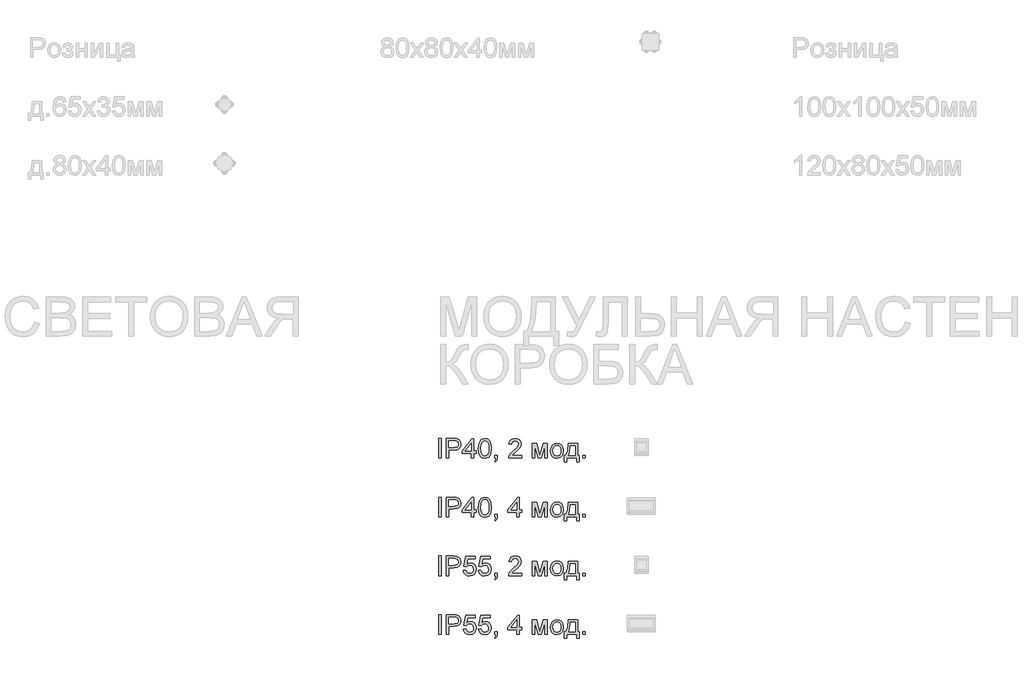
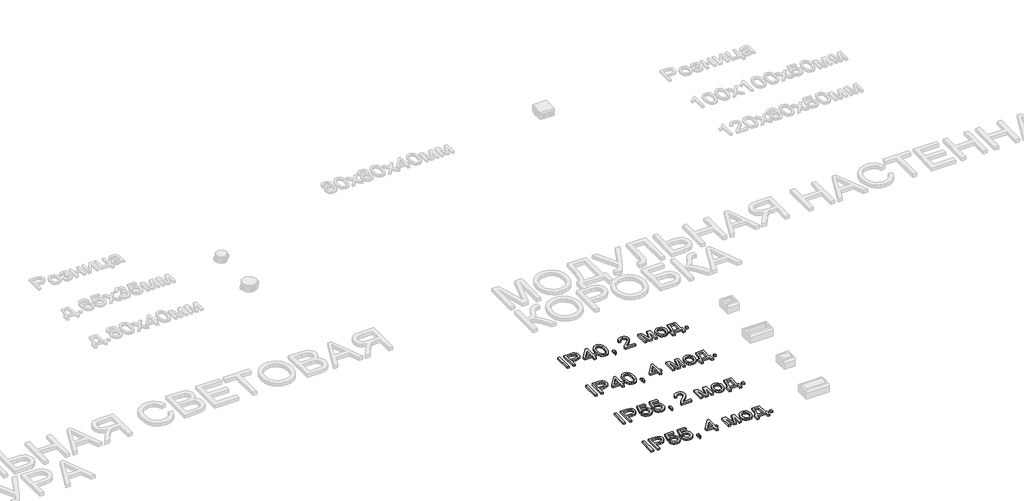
# One storey, part 7 of 98: 4 proxies.
"""IFC4 building model written with IfcOpenShell, lengths in millimetres."""

from ifc_helpers import new_model, si_unit, origin, origin_with_axes, place, context, project, spatial, polyline, outline, extrude, element, save

model = new_model("IFC4")

# Units and contexts
model_context = context("Model", 3, world=origin())
ifc_project = project(units=[si_unit("LENGTHUNIT", "METRE", prefix="MILLI")], contexts=[model_context])

# Site, building, storey
site = spatial("IfcSite", under=ifc_project)
building = spatial("IfcBuilding", under=site)
storey = spatial("IfcBuildingStorey", under=building, Name="Этаж 01", Elevation=0.0)

# Proxies
placement = place(None, origin())
element("IfcBuildingElementProxy", 1, Name="100", ObjectType="100", at=placement, inside=storey, context=model_context, shape_type="SweptSolid", body=[
    extrude(outline(polyline([(4145.2629118, -48404.2224173), (4145.2629118, -48303.7661071), (4157.8199506, -48303.7661071), (4157.8199506, -48404.2224173), (4145.2629118, -48404.2224173)])), origin_with_axes(), (0.0, 0.0, 1.0), 10.0),
    extrude(outline(polyline([(4182.9340281, -48404.2224173), (4182.9340281, -48303.7661071), (4220.163686, -48303.7661071), (4235.1732714, -48304.7226003), (4247.3746909, -48309.4192271), (4255.2841538, -48319.1313118), (4258.2762607, -48332.8287848), (4256.2559754, -48344.6684536), (4250.1951196, -48354.5338225), (4238.8612884, -48361.1924866), (4221.0220773, -48363.4120413), (4195.4910669, -48363.4120413), (4195.4910669, -48404.2224173), (4182.9340281, -48404.2224173)]), holes=[polyline([(4195.4910669, -48350.8550025), (4221.7578413, -48350.8550025), (4240.2500429, -48346.2442148), (4244.3519272, -48340.6953281), (4245.7192219, -48333.2702431), (4242.4941231, -48322.8714454), (4234.0205745, -48317.1815372), (4221.4635357, -48316.3231459), (4195.4910669, -48316.3231459), (4195.4910669, -48350.8550025)])]), origin_with_axes(), (0.0, 0.0, 1.0), 10.0),
    extrude(outline(polyline([(4311.6436755, -48404.2224173), (4311.6436755, -48380.6779696), (4266.1244099, -48380.6779696), (4266.1244099, -48368.1209308), (4314.7829352, -48305.335737), (4324.2007142, -48305.335737), (4324.2007142, -48368.1209308), (4336.757753, -48368.1209308), (4336.757753, -48380.6779696), (4324.2007142, -48380.6779696), (4324.2007142, -48404.2224173), (4311.6436755, -48404.2224173)]), holes=[polyline([(4311.6436755, -48368.1209308), (4311.6436755, -48329.3216431), (4281.5754537, -48368.1209308), (4311.6436755, -48368.1209308)])]), origin_with_axes(), (0.0, 0.0, 1.0), 10.0),
    extrude(outline(polyline([(4347.7451619, -48354.8036026), (4351.4362446, -48325.9003405), (4362.3991281, -48309.2352861), (4380.7073887, -48303.7661071), (4395.3736176, -48307.0034687), (4405.5026352, -48316.3354086), (4411.3887471, -48331.1978412), (4413.6696155, -48354.8036026), (4410.015321, -48383.5842374), (4399.0892257, -48400.2860799), (4390.8578661, -48404.4155553), (4380.7073887, -48405.7920471), (4367.6598406, -48403.4008142), (4357.7515522, -48396.2271153), (4350.2467595, -48379.2370984), (4347.7451619, -48354.8036026)]), holes=[polyline([(4360.3022007, -48354.7790771), (4361.7737287, -48374.5312746), (4366.1883126, -48385.9632076), (4372.7611376, -48391.4170582), (4380.7073887, -48393.2350084), (4388.6536398, -48391.4109268), (4395.2264648, -48385.9386821), (4399.6410487, -48374.5006178), (4401.1125767, -48354.7790771), (4399.6900997, -48335.4714038), (4395.4226685, -48323.9505659), (4388.8621063, -48318.2300009), (4380.5602359, -48316.3231459), (4372.6998239, -48318.0031403), (4366.3845164, -48323.0431237), (4361.8227796, -48335.2813314), (4360.3022007, -48354.7790771)])]), origin_with_axes(), (0.0, 0.0, 1.0), 10.0),
    extrude(outline(polyline([(4430.9355438, -48404.2224173), (4430.9355438, -48391.6653785), (4443.4925825, -48391.6653785), (4443.4925825, -48404.2224173), (4441.2362396, -48417.0614989), (4434.0748035, -48424.6276053), (4430.9355438, -48419.9187157), (4435.5463315, -48414.4985877), (4437.1895377, -48404.2224173), (4430.9355438, -48404.2224173)])), origin_with_axes(), (0.0, 0.0, 1.0), 10.0),
    extrude(outline(polyline([(4567.4933404, -48391.6653785), (4567.4933404, -48404.2224173), (4501.5688869, -48404.2224173), (4502.9177875, -48395.5649277), (4510.5452075, -48382.2353367), (4526.2660315, -48367.6794724), (4547.9465437, -48346.7592496), (4553.3666718, -48332.5344792), (4548.253112, -48321.0197727), (4534.8989956, -48316.3231459), (4520.9807935, -48320.9094081), (4515.6955555, -48333.5890742), (4503.1385167, -48332.0194444), (4506.1827402, -48319.8732072), (4512.7647622, -48311.0011197), (4522.5412263, -48305.5748603), (4535.1687757, -48303.7661071), (4547.8882957, -48305.7771954), (4557.6463657, -48311.8104601), (4563.8543743, -48320.823569), (4565.9237105, -48331.7741897), (4563.6918931, -48343.6813036), (4556.2729395, -48355.9930877), (4538.28351, -48373.1977024), (4523.8380103, -48385.2764945), (4518.1726276, -48391.6653785), (4567.4933404, -48391.6653785)])), origin_with_axes(), (0.0, 0.0, 1.0), 10.0),
    extrude(outline(polyline([(4622.430385, -48330.4498145), (4644.0373209, -48330.4498145), (4660.6901125, -48389.5071375), (4678.6427539, -48330.4498145), (4699.3422475, -48330.4498145), (4699.3422475, -48404.2224173), (4686.7852087, -48404.2224173), (4686.7852087, -48344.8217378), (4668.7344655, -48404.2224173), (4652.2533521, -48404.2224173), (4634.9874238, -48341.9767837), (4634.9874238, -48404.2224173), (4622.430385, -48404.2224173), (4622.430385, -48330.4498145)])), origin_with_axes(), (0.0, 0.0, 1.0), 10.0),
    extrude(outline(polyline([(4715.0385459, -48367.3361159), (4717.7547413, -48349.5490214), (4725.9033275, -48337.047165), (4735.9710314, -48330.9219297), (4748.0252982, -48328.8801847), (4761.2169334, -48331.3664538), (4771.7536868, -48338.8252613), (4778.6606713, -48350.6679958), (4780.9629995, -48366.3060463), (4776.891772, -48388.6487462), (4765.0337091, -48401.2916241), (4748.0252982, -48405.7920471), (4734.6742474, -48403.314975), (4724.1497567, -48395.8837587), (4717.3163486, -48383.7927038), (4715.0385459, -48367.3361159)]), holes=[polyline([(4727.5955847, -48367.3115904), (4729.0487186, -48378.6760784), (4733.4081202, -48386.772548), (4739.9686825, -48391.6193933), (4748.0252982, -48393.2350084), (4756.0451257, -48391.6101962), (4762.5934252, -48386.7357598), (4766.9528268, -48378.5319913), (4768.4059607, -48366.919183), (4766.9436298, -48355.8857888), (4762.556637, -48347.8996838), (4755.9991404, -48343.0528385), (4748.0252982, -48341.4372234), (4739.9686825, -48343.0467072), (4733.4081202, -48347.8751584), (4729.0487186, -48355.9532338), (4727.5955847, -48367.3115904)])]), origin_with_axes(), (0.0, 0.0, 1.0), 10.0),
    extrude(outline(polyline([(4806.077077, -48330.4498145), (4853.1659724, -48330.4498145), (4853.1659724, -48391.6653785), (4862.5837515, -48391.6653785), (4862.5837515, -48424.6276053), (4850.0267127, -48424.6276053), (4850.0267127, -48404.2224173), (4798.2289278, -48404.2224173), (4798.2289278, -48424.6276053), (4785.671889, -48424.6276053), (4785.671889, -48391.6653785), (4793.5200382, -48391.6653785), (4803.2198602, -48367.7162606), (4806.077077, -48330.4498145)]), holes=[polyline([(4817.0644859, -48343.0068533), (4814.12143, -48371.6158098), (4807.6467068, -48391.6653785), (4840.6089336, -48391.6653785), (4840.6089336, -48343.0068533), (4817.0644859, -48343.0068533)])]), origin_with_axes(), (0.0, 0.0, 1.0), 10.0),
    extrude(outline(polyline([(4879.8496798, -48404.2224173), (4879.8496798, -48391.6653785), (4892.4067185, -48391.6653785), (4892.4067185, -48404.2224173), (4879.8496798, -48404.2224173)])), origin_with_axes(), (0.0, 0.0, 1.0), 10.0),
])
element("IfcBuildingElementProxy", 2, Name="100", ObjectType="100", at=placement, inside=storey, context=model_context, shape_type="SweptSolid", body=[
    extrude(outline(polyline([(4145.2629118, -48704.2224173), (4145.2629118, -48603.7661071), (4157.8199506, -48603.7661071), (4157.8199506, -48704.2224173), (4145.2629118, -48704.2224173)])), origin_with_axes(), (0.0, 0.0, 1.0), 10.0),
    extrude(outline(polyline([(4182.9340281, -48704.2224173), (4182.9340281, -48603.7661071), (4220.163686, -48603.7661071), (4235.1732714, -48604.7226003), (4247.3746909, -48609.4192271), (4255.2841538, -48619.1313118), (4258.2762607, -48632.8287848), (4256.2559754, -48644.6684536), (4250.1951196, -48654.5338225), (4238.8612884, -48661.1924866), (4221.0220773, -48663.4120413), (4195.4910669, -48663.4120413), (4195.4910669, -48704.2224173), (4182.9340281, -48704.2224173)]), holes=[polyline([(4195.4910669, -48650.8550025), (4221.7578413, -48650.8550025), (4240.2500429, -48646.2442148), (4244.3519272, -48640.6953281), (4245.7192219, -48633.2702431), (4242.4941231, -48622.8714454), (4234.0205745, -48617.1815372), (4221.4635357, -48616.3231459), (4195.4910669, -48616.3231459), (4195.4910669, -48650.8550025)])]), origin_with_axes(), (0.0, 0.0, 1.0), 10.0),
    extrude(outline(polyline([(4311.6436755, -48704.2224173), (4311.6436755, -48680.6779696), (4266.1244099, -48680.6779696), (4266.1244099, -48668.1209308), (4314.7829352, -48605.335737), (4324.2007142, -48605.335737), (4324.2007142, -48668.1209308), (4336.757753, -48668.1209308), (4336.757753, -48680.6779696), (4324.2007142, -48680.6779696), (4324.2007142, -48704.2224173), (4311.6436755, -48704.2224173)]), holes=[polyline([(4311.6436755, -48668.1209308), (4311.6436755, -48629.3216431), (4281.5754537, -48668.1209308), (4311.6436755, -48668.1209308)])]), origin_with_axes(), (0.0, 0.0, 1.0), 10.0),
    extrude(outline(polyline([(4347.7451619, -48654.8036026), (4351.4362446, -48625.9003405), (4362.3991281, -48609.2352861), (4380.7073887, -48603.7661071), (4395.3736176, -48607.0034687), (4405.5026352, -48616.3354086), (4411.3887471, -48631.1978412), (4413.6696155, -48654.8036026), (4410.015321, -48683.5842374), (4399.0892257, -48700.2860799), (4390.8578661, -48704.4155553), (4380.7073887, -48705.7920471), (4367.6598406, -48703.4008142), (4357.7515522, -48696.2271153), (4350.2467595, -48679.2370984), (4347.7451619, -48654.8036026)]), holes=[polyline([(4360.3022007, -48654.7790771), (4361.7737287, -48674.5312746), (4366.1883126, -48685.9632076), (4372.7611376, -48691.4170582), (4380.7073887, -48693.2350084), (4388.6536398, -48691.4109268), (4395.2264648, -48685.9386821), (4399.6410487, -48674.5006178), (4401.1125767, -48654.7790771), (4399.6900997, -48635.4714038), (4395.4226685, -48623.9505659), (4388.8621063, -48618.2300009), (4380.5602359, -48616.3231459), (4372.6998239, -48618.0031403), (4366.3845164, -48623.0431237), (4361.8227796, -48635.2813314), (4360.3022007, -48654.7790771)])]), origin_with_axes(), (0.0, 0.0, 1.0), 10.0),
    extrude(outline(polyline([(4430.9355438, -48704.2224173), (4430.9355438, -48691.6653785), (4443.4925825, -48691.6653785), (4443.4925825, -48704.2224173), (4441.2362396, -48717.0614989), (4434.0748035, -48724.6276053), (4430.9355438, -48719.9187157), (4435.5463315, -48714.4985877), (4437.1895377, -48704.2224173), (4430.9355438, -48704.2224173)])), origin_with_axes(), (0.0, 0.0, 1.0), 10.0),
    extrude(outline(polyline([(4543.9488927, -48704.2224173), (4543.9488927, -48680.6779696), (4498.4296272, -48680.6779696), (4498.4296272, -48668.1209308), (4547.0881524, -48605.335737), (4556.5059315, -48605.335737), (4556.5059315, -48668.1209308), (4569.0629702, -48668.1209308), (4569.0629702, -48680.6779696), (4556.5059315, -48680.6779696), (4556.5059315, -48704.2224173), (4543.9488927, -48704.2224173)]), holes=[polyline([(4543.9488927, -48668.1209308), (4543.9488927, -48629.3216431), (4513.880671, -48668.1209308), (4543.9488927, -48668.1209308)])]), origin_with_axes(), (0.0, 0.0, 1.0), 10.0),
    extrude(outline(polyline([(4622.430385, -48630.4498145), (4644.0373209, -48630.4498145), (4660.6901125, -48689.5071375), (4678.6427539, -48630.4498145), (4699.3422475, -48630.4498145), (4699.3422475, -48704.2224173), (4686.7852087, -48704.2224173), (4686.7852087, -48644.8217378), (4668.7344655, -48704.2224173), (4652.2533521, -48704.2224173), (4634.9874238, -48641.9767837), (4634.9874238, -48704.2224173), (4622.430385, -48704.2224173), (4622.430385, -48630.4498145)])), origin_with_axes(), (0.0, 0.0, 1.0), 10.0),
    extrude(outline(polyline([(4715.0385459, -48667.3361159), (4717.7547413, -48649.5490214), (4725.9033275, -48637.047165), (4735.9710314, -48630.9219297), (4748.0252982, -48628.8801847), (4761.2169334, -48631.3664538), (4771.7536868, -48638.8252613), (4778.6606713, -48650.6679958), (4780.9629995, -48666.3060463), (4776.891772, -48688.6487462), (4765.0337091, -48701.2916241), (4748.0252982, -48705.7920471), (4734.6742474, -48703.314975), (4724.1497567, -48695.8837587), (4717.3163486, -48683.7927038), (4715.0385459, -48667.3361159)]), holes=[polyline([(4727.5955847, -48667.3115904), (4729.0487186, -48678.6760784), (4733.4081202, -48686.772548), (4739.9686825, -48691.6193933), (4748.0252982, -48693.2350084), (4756.0451257, -48691.6101962), (4762.5934252, -48686.7357598), (4766.9528268, -48678.5319913), (4768.4059607, -48666.919183), (4766.9436298, -48655.8857888), (4762.556637, -48647.8996838), (4755.9991404, -48643.0528385), (4748.0252982, -48641.4372234), (4739.9686825, -48643.0467072), (4733.4081202, -48647.8751584), (4729.0487186, -48655.9532338), (4727.5955847, -48667.3115904)])]), origin_with_axes(), (0.0, 0.0, 1.0), 10.0),
    extrude(outline(polyline([(4806.077077, -48630.4498145), (4853.1659724, -48630.4498145), (4853.1659724, -48691.6653785), (4862.5837515, -48691.6653785), (4862.5837515, -48724.6276053), (4850.0267127, -48724.6276053), (4850.0267127, -48704.2224173), (4798.2289278, -48704.2224173), (4798.2289278, -48724.6276053), (4785.671889, -48724.6276053), (4785.671889, -48691.6653785), (4793.5200382, -48691.6653785), (4803.2198602, -48667.7162606), (4806.077077, -48630.4498145)]), holes=[polyline([(4817.0644859, -48643.0068533), (4814.12143, -48671.6158098), (4807.6467068, -48691.6653785), (4840.6089336, -48691.6653785), (4840.6089336, -48643.0068533), (4817.0644859, -48643.0068533)])]), origin_with_axes(), (0.0, 0.0, 1.0), 10.0),
    extrude(outline(polyline([(4879.8496798, -48704.2224173), (4879.8496798, -48691.6653785), (4892.4067185, -48691.6653785), (4892.4067185, -48704.2224173), (4879.8496798, -48704.2224173)])), origin_with_axes(), (0.0, 0.0, 1.0), 10.0),
])
element("IfcBuildingElementProxy", 3, Name="100", ObjectType="100", at=placement, inside=storey, context=model_context, shape_type="SweptSolid", body=[
    extrude(outline(polyline([(4145.2629118, -49004.2224173), (4145.2629118, -48903.7661071), (4157.8199506, -48903.7661071), (4157.8199506, -49004.2224173), (4145.2629118, -49004.2224173)])), origin_with_axes(), (0.0, 0.0, 1.0), 10.0),
    extrude(outline(polyline([(4182.9340281, -49004.2224173), (4182.9340281, -48903.7661071), (4220.163686, -48903.7661071), (4235.1732714, -48904.7226003), (4247.3746909, -48909.4192271), (4255.2841538, -48919.1313118), (4258.2762607, -48932.8287848), (4256.2559754, -48944.6684536), (4250.1951196, -48954.5338225), (4238.8612884, -48961.1924866), (4221.0220773, -48963.4120413), (4195.4910669, -48963.4120413), (4195.4910669, -49004.2224173), (4182.9340281, -49004.2224173)]), holes=[polyline([(4195.4910669, -48950.8550025), (4221.7578413, -48950.8550025), (4240.2500429, -48946.2442148), (4244.3519272, -48940.6953281), (4245.7192219, -48933.2702431), (4242.4941231, -48922.8714454), (4234.0205745, -48917.1815372), (4221.4635357, -48916.3231459), (4195.4910669, -48916.3231459), (4195.4910669, -48950.8550025)])]), origin_with_axes(), (0.0, 0.0, 1.0), 10.0),
    extrude(outline(polyline([(4270.8332995, -48977.5387099), (4283.3903382, -48975.9690801), (4289.7179086, -48988.9062636), (4302.8390331, -48993.2350084), (4311.8398792, -48991.7297579), (4318.5843825, -48987.2140064), (4322.7966313, -48980.20892), (4324.2007142, -48971.235665), (4318.9400017, -48956.3241815), (4312.3334542, -48952.2222973), (4303.0352368, -48950.8550025), (4292.0110397, -48953.037769), (4284.9599681, -48958.7031517), (4272.4029293, -48957.1335219), (4283.3903382, -48905.335737), (4332.0488635, -48905.335737), (4332.0488635, -48917.8927757), (4293.5438813, -48917.8927757), (4288.1728042, -48945.5575018), (4297.1429935, -48940.1128483), (4306.5423785, -48938.2979637), (4318.2747484, -48940.5481753), (4328.0144243, -48947.2988099), (4334.5719208, -48957.587243), (4336.757753, -48970.4508501), (4334.7895843, -48983.0078889), (4328.8850783, -48993.7500432), (4317.5788383, -49002.7815461), (4302.7899821, -49005.7920471), (4290.4567382, -49003.857601), (4280.6312233, -48998.0542625), (4273.8959171, -48989.056482), (4270.8332995, -48977.5387099)])), origin_with_axes(), (0.0, 0.0, 1.0), 10.0),
    extrude(outline(polyline([(4347.7451619, -48977.5387099), (4360.3022007, -48975.9690801), (4366.629771, -48988.9062636), (4379.7508955, -48993.2350084), (4388.7517417, -48991.7297579), (4395.4962449, -48987.2140064), (4399.7084938, -48980.20892), (4401.1125767, -48971.235665), (4395.8518642, -48956.3241815), (4389.2453167, -48952.2222973), (4379.9470992, -48950.8550025), (4368.9229021, -48953.037769), (4361.8718306, -48958.7031517), (4349.3147918, -48957.1335219), (4360.3022007, -48905.335737), (4408.9607259, -48905.335737), (4408.9607259, -48917.8927757), (4370.4557438, -48917.8927757), (4365.0846666, -48945.5575018), (4374.054856, -48940.1128483), (4383.4542409, -48938.2979637), (4395.1866109, -48940.5481753), (4404.9262867, -48947.2988099), (4411.4837833, -48957.587243), (4413.6696155, -48970.4508501), (4411.7014468, -48983.0078889), (4405.7969408, -48993.7500432), (4394.4907008, -49002.7815461), (4379.7018446, -49005.7920471), (4367.3686007, -49003.857601), (4357.5430857, -48998.0542625), (4350.8077795, -48989.056482), (4347.7451619, -48977.5387099)])), origin_with_axes(), (0.0, 0.0, 1.0), 10.0),
    extrude(outline(polyline([(4430.9355438, -49004.2224173), (4430.9355438, -48991.6653785), (4443.4925825, -48991.6653785), (4443.4925825, -49004.2224173), (4441.2362396, -49017.0614989), (4434.0748035, -49024.6276053), (4430.9355438, -49019.9187157), (4435.5463315, -49014.4985877), (4437.1895377, -49004.2224173), (4430.9355438, -49004.2224173)])), origin_with_axes(), (0.0, 0.0, 1.0), 10.0),
    extrude(outline(polyline([(4567.4933404, -48991.6653785), (4567.4933404, -49004.2224173), (4501.5688869, -49004.2224173), (4502.9177875, -48995.5649277), (4510.5452075, -48982.2353367), (4526.2660315, -48967.6794724), (4547.9465437, -48946.7592496), (4553.3666718, -48932.5344792), (4548.253112, -48921.0197727), (4534.8989956, -48916.3231459), (4520.9807935, -48920.9094081), (4515.6955555, -48933.5890742), (4503.1385167, -48932.0194444), (4506.1827402, -48919.8732072), (4512.7647622, -48911.0011197), (4522.5412263, -48905.5748603), (4535.1687757, -48903.7661071), (4547.8882957, -48905.7771954), (4557.6463657, -48911.8104601), (4563.8543743, -48920.823569), (4565.9237105, -48931.7741897), (4563.6918931, -48943.6813036), (4556.2729395, -48955.9930877), (4538.28351, -48973.1977024), (4523.8380103, -48985.2764945), (4518.1726276, -48991.6653785), (4567.4933404, -48991.6653785)])), origin_with_axes(), (0.0, 0.0, 1.0), 10.0),
    extrude(outline(polyline([(4622.430385, -48930.4498145), (4644.0373209, -48930.4498145), (4660.6901125, -48989.5071375), (4678.6427539, -48930.4498145), (4699.3422475, -48930.4498145), (4699.3422475, -49004.2224173), (4686.7852087, -49004.2224173), (4686.7852087, -48944.8217378), (4668.7344655, -49004.2224173), (4652.2533521, -49004.2224173), (4634.9874238, -48941.9767837), (4634.9874238, -49004.2224173), (4622.430385, -49004.2224173), (4622.430385, -48930.4498145)])), origin_with_axes(), (0.0, 0.0, 1.0), 10.0),
    extrude(outline(polyline([(4715.0385459, -48967.3361159), (4717.7547413, -48949.5490214), (4725.9033275, -48937.047165), (4735.9710314, -48930.9219297), (4748.0252982, -48928.8801847), (4761.2169334, -48931.3664538), (4771.7536868, -48938.8252613), (4778.6606713, -48950.6679958), (4780.9629995, -48966.3060463), (4776.891772, -48988.6487462), (4765.0337091, -49001.2916241), (4748.0252982, -49005.7920471), (4734.6742474, -49003.314975), (4724.1497567, -48995.8837587), (4717.3163486, -48983.7927038), (4715.0385459, -48967.3361159)]), holes=[polyline([(4727.5955847, -48967.3115904), (4729.0487186, -48978.6760784), (4733.4081202, -48986.772548), (4739.9686825, -48991.6193933), (4748.0252982, -48993.2350084), (4756.0451257, -48991.6101962), (4762.5934252, -48986.7357598), (4766.9528268, -48978.5319913), (4768.4059607, -48966.919183), (4766.9436298, -48955.8857888), (4762.556637, -48947.8996838), (4755.9991404, -48943.0528385), (4748.0252982, -48941.4372234), (4739.9686825, -48943.0467072), (4733.4081202, -48947.8751584), (4729.0487186, -48955.9532338), (4727.5955847, -48967.3115904)])]), origin_with_axes(), (0.0, 0.0, 1.0), 10.0),
    extrude(outline(polyline([(4806.077077, -48930.4498145), (4853.1659724, -48930.4498145), (4853.1659724, -48991.6653785), (4862.5837515, -48991.6653785), (4862.5837515, -49024.6276053), (4850.0267127, -49024.6276053), (4850.0267127, -49004.2224173), (4798.2289278, -49004.2224173), (4798.2289278, -49024.6276053), (4785.671889, -49024.6276053), (4785.671889, -48991.6653785), (4793.5200382, -48991.6653785), (4803.2198602, -48967.7162606), (4806.077077, -48930.4498145)]), holes=[polyline([(4817.0644859, -48943.0068533), (4814.12143, -48971.6158098), (4807.6467068, -48991.6653785), (4840.6089336, -48991.6653785), (4840.6089336, -48943.0068533), (4817.0644859, -48943.0068533)])]), origin_with_axes(), (0.0, 0.0, 1.0), 10.0),
    extrude(outline(polyline([(4879.8496798, -49004.2224173), (4879.8496798, -48991.6653785), (4892.4067185, -48991.6653785), (4892.4067185, -49004.2224173), (4879.8496798, -49004.2224173)])), origin_with_axes(), (0.0, 0.0, 1.0), 10.0),
])
element("IfcBuildingElementProxy", 4, Name="100", ObjectType="100", at=placement, inside=storey, context=model_context, shape_type="SweptSolid", body=[
    extrude(outline(polyline([(4145.2629118, -49304.2224173), (4145.2629118, -49203.7661071), (4157.8199506, -49203.7661071), (4157.8199506, -49304.2224173), (4145.2629118, -49304.2224173)])), origin_with_axes(), (0.0, 0.0, 1.0), 10.0),
    extrude(outline(polyline([(4182.9340281, -49304.2224173), (4182.9340281, -49203.7661071), (4220.163686, -49203.7661071), (4235.1732714, -49204.7226003), (4247.3746909, -49209.4192271), (4255.2841538, -49219.1313118), (4258.2762607, -49232.8287848), (4256.2559754, -49244.6684536), (4250.1951196, -49254.5338225), (4238.8612884, -49261.1924866), (4221.0220773, -49263.4120413), (4195.4910669, -49263.4120413), (4195.4910669, -49304.2224173), (4182.9340281, -49304.2224173)]), holes=[polyline([(4195.4910669, -49250.8550025), (4221.7578413, -49250.8550025), (4240.2500429, -49246.2442148), (4244.3519272, -49240.6953281), (4245.7192219, -49233.2702431), (4242.4941231, -49222.8714454), (4234.0205745, -49217.1815372), (4221.4635357, -49216.3231459), (4195.4910669, -49216.3231459), (4195.4910669, -49250.8550025)])]), origin_with_axes(), (0.0, 0.0, 1.0), 10.0),
    extrude(outline(polyline([(4270.8332995, -49277.5387099), (4283.3903382, -49275.9690801), (4289.7179086, -49288.9062636), (4302.8390331, -49293.2350084), (4311.8398792, -49291.7297579), (4318.5843825, -49287.2140064), (4322.7966313, -49280.20892), (4324.2007142, -49271.235665), (4318.9400017, -49256.3241815), (4312.3334542, -49252.2222973), (4303.0352368, -49250.8550025), (4292.0110397, -49253.037769), (4284.9599681, -49258.7031517), (4272.4029293, -49257.1335219), (4283.3903382, -49205.335737), (4332.0488635, -49205.335737), (4332.0488635, -49217.8927757), (4293.5438813, -49217.8927757), (4288.1728042, -49245.5575018), (4297.1429935, -49240.1128483), (4306.5423785, -49238.2979637), (4318.2747484, -49240.5481753), (4328.0144243, -49247.2988099), (4334.5719208, -49257.587243), (4336.757753, -49270.4508501), (4334.7895843, -49283.0078889), (4328.8850783, -49293.7500432), (4317.5788383, -49302.7815461), (4302.7899821, -49305.7920471), (4290.4567382, -49303.857601), (4280.6312233, -49298.0542625), (4273.8959171, -49289.056482), (4270.8332995, -49277.5387099)])), origin_with_axes(), (0.0, 0.0, 1.0), 10.0),
    extrude(outline(polyline([(4347.7451619, -49277.5387099), (4360.3022007, -49275.9690801), (4366.629771, -49288.9062636), (4379.7508955, -49293.2350084), (4388.7517417, -49291.7297579), (4395.4962449, -49287.2140064), (4399.7084938, -49280.20892), (4401.1125767, -49271.235665), (4395.8518642, -49256.3241815), (4389.2453167, -49252.2222973), (4379.9470992, -49250.8550025), (4368.9229021, -49253.037769), (4361.8718306, -49258.7031517), (4349.3147918, -49257.1335219), (4360.3022007, -49205.335737), (4408.9607259, -49205.335737), (4408.9607259, -49217.8927757), (4370.4557438, -49217.8927757), (4365.0846666, -49245.5575018), (4374.054856, -49240.1128483), (4383.4542409, -49238.2979637), (4395.1866109, -49240.5481753), (4404.9262867, -49247.2988099), (4411.4837833, -49257.587243), (4413.6696155, -49270.4508501), (4411.7014468, -49283.0078889), (4405.7969408, -49293.7500432), (4394.4907008, -49302.7815461), (4379.7018446, -49305.7920471), (4367.3686007, -49303.857601), (4357.5430857, -49298.0542625), (4350.8077795, -49289.056482), (4347.7451619, -49277.5387099)])), origin_with_axes(), (0.0, 0.0, 1.0), 10.0),
    extrude(outline(polyline([(4430.9355438, -49304.2224173), (4430.9355438, -49291.6653785), (4443.4925825, -49291.6653785), (4443.4925825, -49304.2224173), (4441.2362396, -49317.0614989), (4434.0748035, -49324.6276053), (4430.9355438, -49319.9187157), (4435.5463315, -49314.4985877), (4437.1895377, -49304.2224173), (4430.9355438, -49304.2224173)])), origin_with_axes(), (0.0, 0.0, 1.0), 10.0),
    extrude(outline(polyline([(4543.9488927, -49304.2224173), (4543.9488927, -49280.6779696), (4498.4296272, -49280.6779696), (4498.4296272, -49268.1209308), (4547.0881524, -49205.335737), (4556.5059315, -49205.335737), (4556.5059315, -49268.1209308), (4569.0629702, -49268.1209308), (4569.0629702, -49280.6779696), (4556.5059315, -49280.6779696), (4556.5059315, -49304.2224173), (4543.9488927, -49304.2224173)]), holes=[polyline([(4543.9488927, -49268.1209308), (4543.9488927, -49229.3216431), (4513.880671, -49268.1209308), (4543.9488927, -49268.1209308)])]), origin_with_axes(), (0.0, 0.0, 1.0), 10.0),
    extrude(outline(polyline([(4622.430385, -49230.4498145), (4644.0373209, -49230.4498145), (4660.6901125, -49289.5071375), (4678.6427539, -49230.4498145), (4699.3422475, -49230.4498145), (4699.3422475, -49304.2224173), (4686.7852087, -49304.2224173), (4686.7852087, -49244.8217378), (4668.7344655, -49304.2224173), (4652.2533521, -49304.2224173), (4634.9874238, -49241.9767837), (4634.9874238, -49304.2224173), (4622.430385, -49304.2224173), (4622.430385, -49230.4498145)])), origin_with_axes(), (0.0, 0.0, 1.0), 10.0),
    extrude(outline(polyline([(4715.0385459, -49267.3361159), (4717.7547413, -49249.5490214), (4725.9033275, -49237.047165), (4735.9710314, -49230.9219297), (4748.0252982, -49228.8801847), (4761.2169334, -49231.3664538), (4771.7536868, -49238.8252613), (4778.6606713, -49250.6679958), (4780.9629995, -49266.3060463), (4776.891772, -49288.6487462), (4765.0337091, -49301.2916241), (4748.0252982, -49305.7920471), (4734.6742474, -49303.314975), (4724.1497567, -49295.8837587), (4717.3163486, -49283.7927038), (4715.0385459, -49267.3361159)]), holes=[polyline([(4727.5955847, -49267.3115904), (4729.0487186, -49278.6760784), (4733.4081202, -49286.772548), (4739.9686825, -49291.6193933), (4748.0252982, -49293.2350084), (4756.0451257, -49291.6101962), (4762.5934252, -49286.7357598), (4766.9528268, -49278.5319913), (4768.4059607, -49266.919183), (4766.9436298, -49255.8857888), (4762.556637, -49247.8996838), (4755.9991404, -49243.0528385), (4748.0252982, -49241.4372234), (4739.9686825, -49243.0467072), (4733.4081202, -49247.8751584), (4729.0487186, -49255.9532338), (4727.5955847, -49267.3115904)])]), origin_with_axes(), (0.0, 0.0, 1.0), 10.0),
    extrude(outline(polyline([(4806.077077, -49230.4498145), (4853.1659724, -49230.4498145), (4853.1659724, -49291.6653785), (4862.5837515, -49291.6653785), (4862.5837515, -49324.6276053), (4850.0267127, -49324.6276053), (4850.0267127, -49304.2224173), (4798.2289278, -49304.2224173), (4798.2289278, -49324.6276053), (4785.671889, -49324.6276053), (4785.671889, -49291.6653785), (4793.5200382, -49291.6653785), (4803.2198602, -49267.7162606), (4806.077077, -49230.4498145)]), holes=[polyline([(4817.0644859, -49243.0068533), (4814.12143, -49271.6158098), (4807.6467068, -49291.6653785), (4840.6089336, -49291.6653785), (4840.6089336, -49243.0068533), (4817.0644859, -49243.0068533)])]), origin_with_axes(), (0.0, 0.0, 1.0), 10.0),
    extrude(outline(polyline([(4879.8496798, -49304.2224173), (4879.8496798, -49291.6653785), (4892.4067185, -49291.6653785), (4892.4067185, -49304.2224173), (4879.8496798, -49304.2224173)])), origin_with_axes(), (0.0, 0.0, 1.0), 10.0),
])

save(model, "model.ifc")
